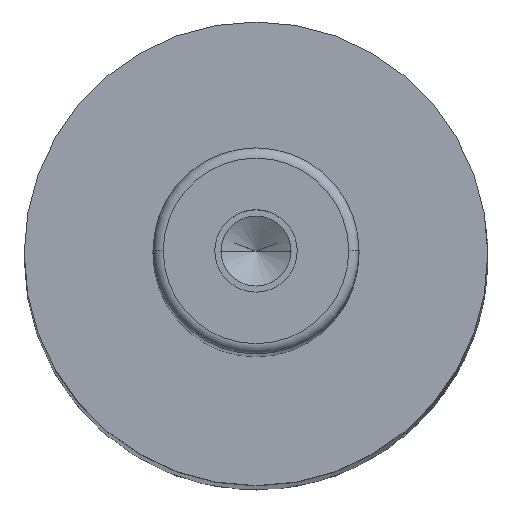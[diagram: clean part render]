
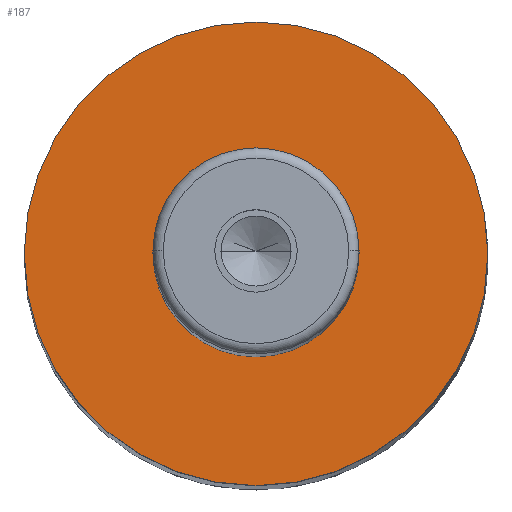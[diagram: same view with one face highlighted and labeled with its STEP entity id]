
A CAD part, top view. The second image highlights one B-rep face of the part: STEP entity #187.
In plain terms, the highlighted planar face has unit normal (0, 0, 1).
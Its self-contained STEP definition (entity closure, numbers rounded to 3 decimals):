
#107=PLANE('',#989);
#130=FACE_BOUND('',#298,.T.);
#131=FACE_BOUND('',#299,.T.);
#187=ADVANCED_FACE('',(#130,#131),#107,.T.);
#298=EDGE_LOOP('',(#463,#464));
#299=EDGE_LOOP('',(#465,#466));
#367=CIRCLE('',#983,10.);
#368=CIRCLE('',#985,10.);
#369=CIRCLE('',#987,22.5);
#370=CIRCLE('',#988,22.5);
#463=ORIENTED_EDGE('',*,*,#758,.F.);
#464=ORIENTED_EDGE('',*,*,#759,.F.);
#465=ORIENTED_EDGE('',*,*,#757,.T.);
#466=ORIENTED_EDGE('',*,*,#755,.T.);
#670=VERTEX_POINT('',#1421);
#671=VERTEX_POINT('',#1423);
#672=VERTEX_POINT('',#1429);
#673=VERTEX_POINT('',#1430);
#755=EDGE_CURVE('',#671,#670,#367,.T.);
#757=EDGE_CURVE('',#670,#671,#368,.T.);
#758=EDGE_CURVE('',#672,#673,#369,.T.);
#759=EDGE_CURVE('',#673,#672,#370,.T.);
#983=AXIS2_PLACEMENT_3D('',#1422,#1137,#1138);
#985=AXIS2_PLACEMENT_3D('',#1426,#1142,#1143);
#987=AXIS2_PLACEMENT_3D('',#1428,#1146,#1147);
#988=AXIS2_PLACEMENT_3D('',#1431,#1148,#1149);
#989=AXIS2_PLACEMENT_3D('',#1432,#1150,#1151);
#1137=DIRECTION('',(0.,0.,-1.));
#1138=DIRECTION('',(0.,1.,0.));
#1142=DIRECTION('',(0.,0.,-1.));
#1143=DIRECTION('',(0.,-1.,0.));
#1146=DIRECTION('',(0.,0.,-1.));
#1147=DIRECTION('',(0.,1.,0.));
#1148=DIRECTION('',(0.,0.,-1.));
#1149=DIRECTION('',(0.,-1.,0.));
#1150=DIRECTION('',(0.,0.,1.));
#1151=DIRECTION('',(0.,-1.,0.));
#1421=CARTESIAN_POINT('',(-10.,0.,243.));
#1422=CARTESIAN_POINT('',(0.,0.,243.));
#1423=CARTESIAN_POINT('',(10.,0.,243.));
#1426=CARTESIAN_POINT('',(0.,0.,243.));
#1428=CARTESIAN_POINT('',(0.,0.,243.));
#1429=CARTESIAN_POINT('',(22.5,0.,243.));
#1430=CARTESIAN_POINT('',(-22.5,0.,243.));
#1431=CARTESIAN_POINT('',(0.,0.,243.));
#1432=CARTESIAN_POINT('',(0.,0.,243.));
